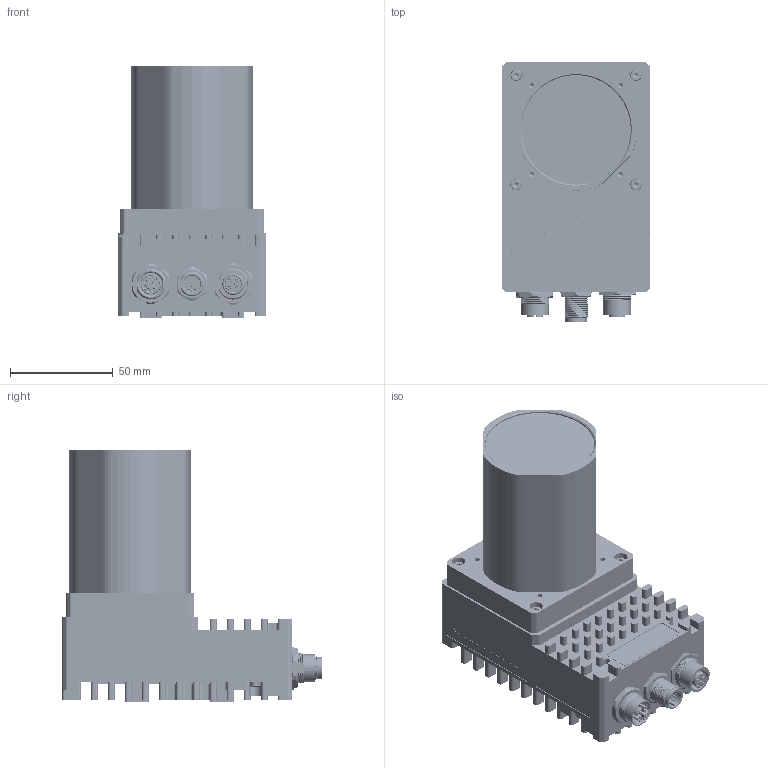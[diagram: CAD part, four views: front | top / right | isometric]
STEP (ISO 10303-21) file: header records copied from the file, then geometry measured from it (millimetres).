
FILE_DESCRIPTION (( 'STEP AP214' ), '1' );
FILE_NAME ('1GSC - Smart Cam - Main Assembly - long Lens Tube_2025-07-11.STEP', '2025-07-11T07:34:43', ( '' ), ( '' ), 'SwSTEP 2.0', 'SolidWorks 2023', '' );
FILE_SCHEMA (( 'AUTOMOTIVE_DESIGN' ));
Length unit declared in the file: millimetre
Products named in the file (1): 1GSC - Smart Cam - Main Assembly - long Lens Tube_2025-07-11
Bounding box: 72 x 126.05 x 122.7 mm (x, y, z)
Volume: 367273.4 mm3; surface area: 137310.8 mm2
Topology: 54 solids, 59 shells, 4010 faces, 10172 edges, 6633 vertices
Faces by surface type: cylinder 1907, plane 1511, cone 259, bspline 172, torus 137, sphere 24
Entity records: 217707 total; most frequent: CARTESIAN_POINT 75642, DIRECTION 20784, ORIENTED_EDGE 20188, EDGE_CURVE 10094, AXIS2_PLACEMENT_3D 7882, VERTEX_POINT 6621, VECTOR 5020, LINE 5020
